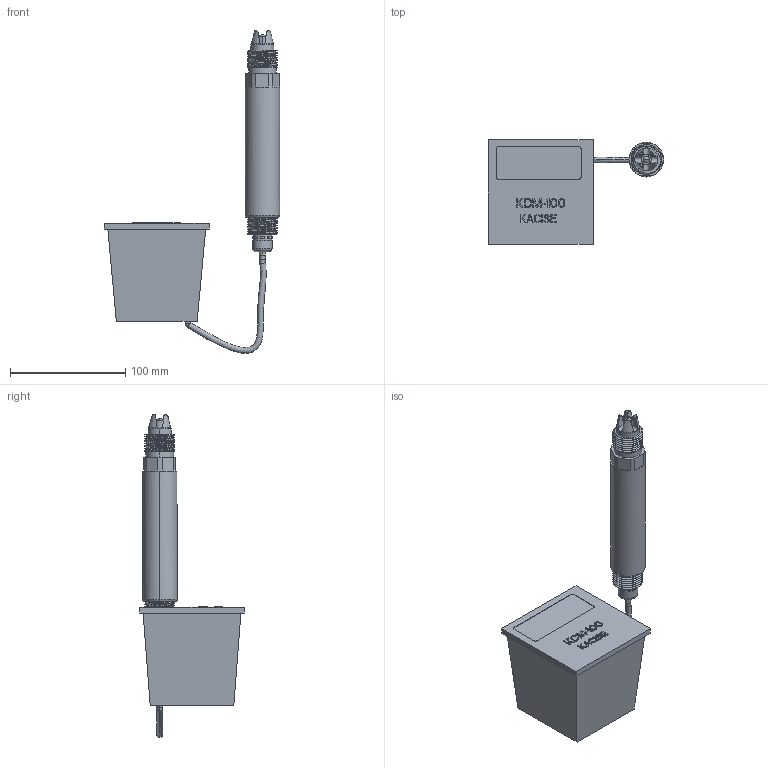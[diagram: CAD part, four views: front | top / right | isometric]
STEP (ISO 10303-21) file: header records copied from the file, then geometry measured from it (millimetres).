
FILE_DESCRIPTION((''),'2;1');
FILE_NAME('ASM0012_ASM','2025-12-30T16:27:53',('28740194'),(''),'CREO PARAMETRIC BY PTC INC, 2024063','CREO PARAMETRIC BY PTC INC, 2024063','');
FILE_SCHEMA(('CONFIG_CONTROL_DESIGN'));
Length unit declared in the file: millimetre
Products named in the file (9): KDM-100ZZ; LUODING; KWS-750ZZ; 222000; 0010; 0011; 260_ASM; KWS-750_ASM; ASM0012_ASM
Assembly tree (24 placements, depth 4):
  ASM0012_ASM
    KDM-100ZZ
    LUODING  x16
    KWS-750_ASM
      KWS-750ZZ
      222000
      0010
      260_ASM
        0011
        222000
Bounding box: 152.28 x 91 x 280.4 mm (x, y, z)
Volume: 644876.1 mm3; surface area: 69720.5 mm2
Topology: 22 solids, 38 shells, 1006 faces, 2571 edges, 1689 vertices
Faces by surface type: plane 689, cylinder 237, cone 36, bspline 34, torus 8, sphere 2
Entity records: 25892 total; most frequent: CARTESIAN_POINT 8987, ORIENTED_EDGE 3440, DIRECTION 3344, EDGE_CURVE 1752, VECTOR 1252, LINE 1252, VERTEX_POINT 1167, AXIS2_PLACEMENT_3D 1046
